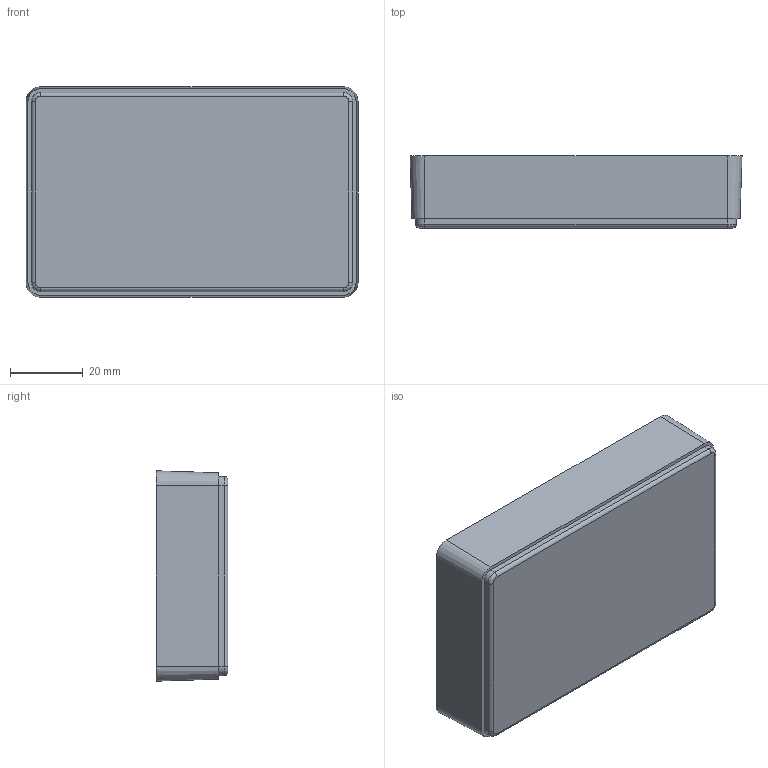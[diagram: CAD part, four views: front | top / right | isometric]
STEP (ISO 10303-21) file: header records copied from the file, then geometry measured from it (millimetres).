
FILE_DESCRIPTION (( 'STEP AP214' ), '1' );
FILE_NAME ('Cos PP6.STEP', '2016-09-08T14:21:45', ( 'aaa' ), ( '' ), 'SwSTEP 2.0', 'SolidWorks 2013', '' );
FILE_SCHEMA (( 'AUTOMOTIVE_DESIGN' ));
Length unit declared in the file: millimetre
Products named in the file (1): Cos PP6
Bounding box: 91.03 x 19.66 x 57.68 mm (x, y, z)
Volume: 17711.2 mm3; surface area: 21182.6 mm2
Topology: 1 solids, 1 shells, 59 faces, 136 edges, 88 vertices
Faces by surface type: plane 27, cylinder 20, cone 8, torus 4
Entity records: 1720 total; most frequent: DIRECTION 316, CARTESIAN_POINT 284, ORIENTED_EDGE 272, EDGE_CURVE 136, AXIS2_PLACEMENT_3D 120, VERTEX_POINT 88, LINE 76, VECTOR 76
